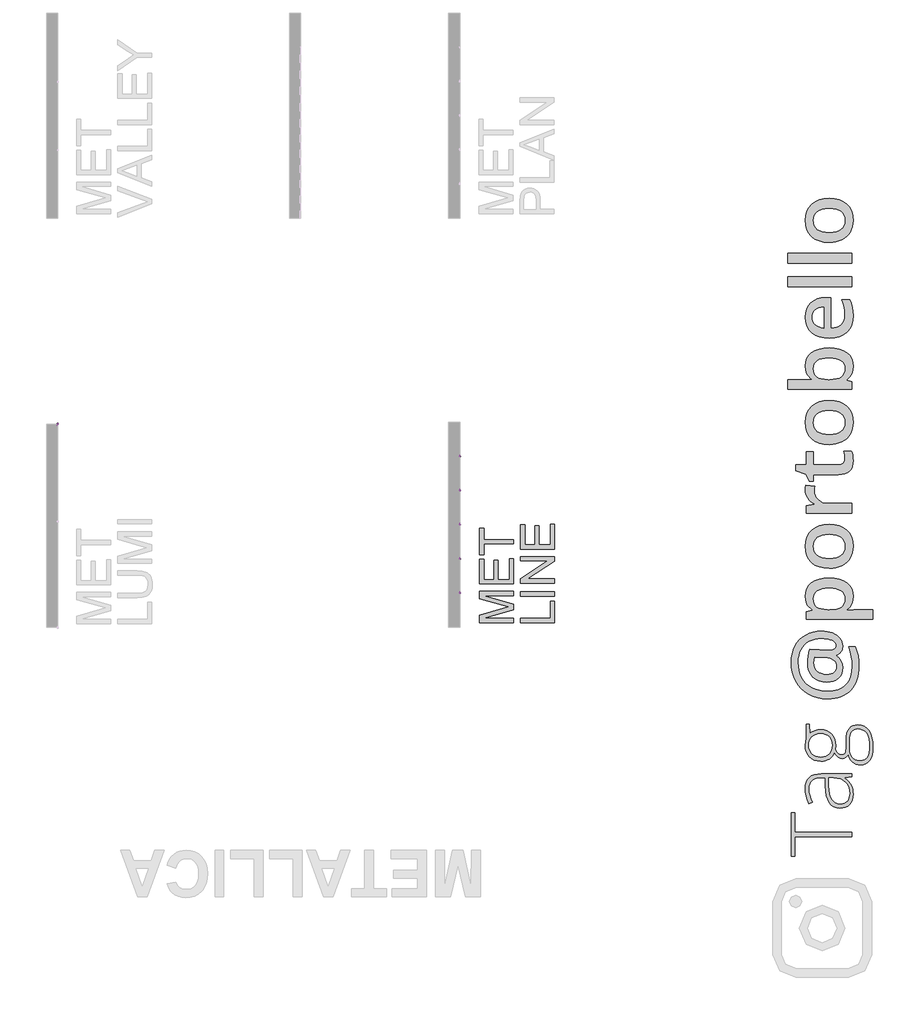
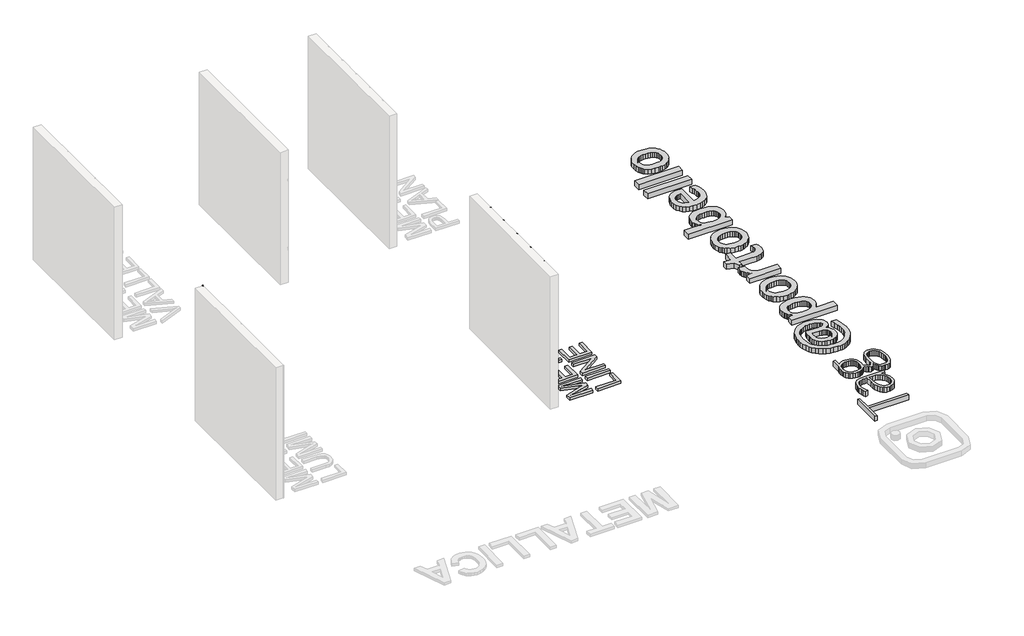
# One storey, part 3 of 4: 21 proxies.
"""IFC4 building model written with IfcOpenShell, lengths in millimetres."""

from ifc_helpers import new_model, si_unit, origin, origin_with_axes, place, context, project, spatial, polyline, outline, extrude, transform, mapped, element, save
from components import generic_models_0ccefe23, generic_models_85288f6c, met_line_black_18039f9f, met_line_black_524d391c

model = new_model("IFC4")

# Units and contexts
model_context = context("Model", 3, world=origin())
ifc_project = project(units=[si_unit("LENGTHUNIT", "METRE", prefix="MILLI")], contexts=[model_context])

# Site, building, storey
site = spatial("IfcSite", under=ifc_project)
building = spatial("IfcBuilding", under=site)
storey = spatial("IfcBuildingStorey", under=building, Name="PORTOBELLO - SHOWROOM", Elevation=0.0)

# Proxies
placement = place(None, origin())
generic_models_shape = generic_models_0ccefe23(model_context)
element("IfcBuildingElementProxy", 1, Name="PORTOBELLO - METALLICA MET LUMI DOUBLE CORNER 1,3X120 : LUMI DOUBLE CORNER 1,3X120", ObjectType="PORTOBELLO - METALLICA MET LUMI DOUBLE CORNER 1,3X120 : LUMI DOUBLE CORNER 1,3X120", at=placement, inside=storey, context=model_context, shape_type="MappedRepresentation", body=[
    mapped(generic_models_shape, transform((52626.6154392, 21119.4682026, 600.0), x_axis=(0.0, -1.0, 0.0), y_axis=(0.0, 0.0, -1.0), z_axis=(1.0, 0.0, 0.0))),
])
element("IfcBuildingElementProxy", 2, Name="PORTOBELLO - METALLICA MET LUMI DOUBLE CORNER 1,3X120 : LUMI DOUBLE CORNER 1,3X120", ObjectType="PORTOBELLO - METALLICA MET LUMI DOUBLE CORNER 1,3X120 : LUMI DOUBLE CORNER 1,3X120", at=placement, inside=storey, context=model_context, shape_type="MappedRepresentation", body=[
    mapped(generic_models_shape, transform((52626.6154392, 21119.4682026, 1800.0), x_axis=(0.0, -1.0, 0.0), y_axis=(0.0, 0.0, -1.0), z_axis=(1.0, 0.0, 0.0))),
])
generic_models_2_shape = generic_models_85288f6c(model_context)
element("IfcBuildingElementProxy", 3, Name="PORTOBELLO - METALLICA MET LUMI DOUBLE CORNER 1,3X120 : LUMI DOUBLE CORNER 1,3X120", ObjectType="PORTOBELLO - METALLICA MET LUMI DOUBLE CORNER 1,3X120 : LUMI DOUBLE CORNER 1,3X120", at=placement, inside=storey, context=model_context, shape_type="MappedRepresentation", body=[
    mapped(generic_models_2_shape, transform((52626.6154392, 21119.4682026, 3000.0), x_axis=(0.0, -1.0, 0.0), y_axis=(0.0, 0.0, -1.0), z_axis=(1.0, 0.0, 0.0))),
])
element("IfcBuildingElementProxy", 4, Name="450mm Arial", ObjectType="450mm Arial", at=placement, inside=storey, context=model_context, shape_type="SweptSolid", body=[
    extrude(outline(polyline([(58630.2192493, 18499.6436163), (58180.5631065, 18499.6436163), (58180.5631065, 18596.3592076), (58497.4960372, 18688.3542876), (58563.6929742, 18706.9069946), (58492.0070706, 18726.9966123), (58180.5631065, 18817.4547817), (58180.5631065, 18914.170373), (58630.2192493, 18914.170373), (58630.2192493, 18857.9633551), (58236.7701243, 18857.9633551), (58630.2192493, 18745.0004228), (58630.2192493, 18668.8135665), (58236.7701243, 18555.8506342), (58630.2192493, 18555.8506342), (58630.2192493, 18499.6436163)])), origin_with_axes(), (0.0, 0.0, 1.0), 50.0),
    extrude(outline(polyline([(58630.2192493, 19012.5326542), (58180.5631065, 19012.5326542), (58180.5631065, 19335.7230069), (58236.7701243, 19335.7230069), (58236.7701243, 19068.7396721), (58370.2617917, 19068.7396721), (58370.2617917, 19321.6712524), (58426.4688096, 19321.6712524), (58426.4688096, 19068.7396721), (58574.0122314, 19068.7396721), (58574.0122314, 19342.7488841), (58630.2192493, 19342.7488841), (58630.2192493, 19012.5326542)])), origin_with_axes(), (0.0, 0.0, 1.0), 50.0),
    extrude(outline(polyline([(58630.2192493, 19539.4734466), (58236.7701243, 19539.4734466), (58236.7701243, 19391.9300247), (58180.5631065, 19391.9300247), (58180.5631065, 19743.2238863), (58236.7701243, 19743.2238863), (58236.7701243, 19595.6804644), (58630.2192493, 19595.6804644), (58630.2192493, 19539.4734466)])), origin_with_axes(), (0.0, 0.0, 1.0), 50.0),
    extrude(outline(polyline([(59170.6513324, 18499.6436163), (58720.9951896, 18499.6436163), (58720.9951896, 18555.8506342), (59114.4443146, 18555.8506342), (59114.4443146, 18780.6787056), (59170.6513324, 18780.6787056), (59170.6513324, 18499.6436163)])), origin_with_axes(), (0.0, 0.0, 1.0), 50.0),
    extrude(outline(polyline([(59170.6513324, 18850.9374779), (58720.9951896, 18850.9374779), (58720.9951896, 18907.1444957), (59170.6513324, 18907.1444957), (59170.6513324, 18850.9374779)])), origin_with_axes(), (0.0, 0.0, 1.0), 50.0),
    extrude(outline(polyline([(59170.6513324, 19019.5585314), (58720.9951896, 19019.5585314), (58720.9951896, 19079.7176052), (59077.2291211, 19314.6453752), (58720.9951896, 19314.6453752), (58720.9951896, 19370.852393), (59170.6513324, 19370.852393), (59170.6513324, 19310.6933192), (58814.3076216, 19075.7655493), (59170.6513324, 19075.7655493), (59170.6513324, 19019.5585314)])), origin_with_axes(), (0.0, 0.0, 1.0), 50.0),
    extrude(outline(polyline([(59170.6513324, 19469.2146743), (58720.9951896, 19469.2146743), (58720.9951896, 19792.4050269), (58777.2022075, 19792.4050269), (58777.2022075, 19525.4216921), (58910.6938749, 19525.4216921), (58910.6938749, 19778.3532724), (58966.9008927, 19778.3532724), (58966.9008927, 19525.4216921), (59114.4443146, 19525.4216921), (59114.4443146, 19799.4309041), (59170.6513324, 19799.4309041), (59170.6513324, 19469.2146743)])), origin_with_axes(), (0.0, 0.0, 1.0), 50.0),
])
element("IfcBuildingElementProxy", 5, Name="80mm OpenSans Bold", ObjectType="80mm OpenSans Bold", at=placement, inside=storey, context=model_context, shape_type="SweptSolid", body=[
    extrude(outline(polyline([(62686.7426869, 18389.3546071), (62724.8483016, 18387.8072472), (62761.2863731, 18383.1651676), (62796.0569015, 18375.4283682), (62829.1598867, 18364.5968491), (62859.6413738, 18350.9560456), (62886.5474081, 18334.791393), (62909.8779894, 18316.1028912), (62929.6331179, 18294.8905404), (62945.3545946, 18271.5449361), (62956.5842208, 18246.4566742), (62963.3219966, 18219.6257545), (62965.5679218, 18191.052177), (62959.8592155, 18150.4302247), (62952.7233326, 18132.2825478), (62942.7330966, 18115.5770703), (62930.3091489, 18100.8996859), (62915.872131, 18088.8362881), (62899.4220431, 18079.3868769), (62880.958885, 18072.5514522), (62880.958885, 18065.8211879), (62917.9753386, 18035.6551819), (62944.4156626, 17998.9992782), (62960.279857, 17956.6346681), (62965.5679218, 17909.3425431), (62962.0150033, 17866.6774749), (62951.3562477, 17828.8197382), (62933.591655, 17795.7693332), (62908.7212252, 17767.5262599), (62877.7815393, 17744.9167783), (62841.809178, 17728.7671485), (62800.8041415, 17719.0773707), (62754.7664296, 17715.8474448), (62701.6228806, 17720.1289745), (62653.7223277, 17732.9735637), (62611.0647709, 17754.3812124), (62573.6502102, 17784.3519206), (62543.2062803, 17821.5336262), (62521.4606161, 17864.5742673), (62508.4132176, 17913.4738438), (62504.0640847, 17968.2323557), (62505.8968799, 18012.5499442), (62511.3952655, 18061.3744061), (62520.1385999, 18109.5979516), (62531.7062416, 18152.1127908), (62782.8893197, 18139.8540951), (62795.6287485, 18139.8540951), (62833.4864851, 18143.4595938), (62860.5277256, 18154.27609), (62869.9921597, 18162.3884622), (62876.7524699, 18172.3035837), (62882.1607179, 18197.5420748), (62878.6979369, 18218.2962268), (62868.3095937, 18236.8119651), (62850.9956883, 18253.0892895), (62826.7562208, 18267.1282002), (62797.153574, 18278.432941), (62763.7501306, 18286.5077559), (62726.5458906, 18291.3526448), (62685.540854, 18292.9676077), (62640.4495856, 18290.548919), (62598.1976473, 18283.2928528), (62558.7850394, 18271.1994092), (62522.2117617, 18254.2685881), (62489.0712192, 18232.8759623), (62459.956817, 18207.3971046), (62434.868555, 18177.832015), (62413.8064333, 18144.1806936), (62397.1385131, 18107.1792629), (62385.2328558, 18067.5638456), (62378.0894615, 18025.3344418), (62375.70833, 17980.4910514), (62378.6978894, 17923.51666), (62387.6665675, 17870.3731111), (62402.6143643, 17821.0604045), (62423.5412798, 17775.5785404), (62450.0191611, 17734.5885267), (62481.6198552, 17698.7513716), (62518.343362, 17668.0670752), (62560.1896816, 17642.5356373), (62606.3776226, 17622.4500048), (62656.1259936, 17608.1031245), (62709.4347945, 17599.4949962), (62766.3040255, 17596.6256202), (62840.4796504, 17601.9812881), (62905.5664139, 17618.0482918), (62934.7014726, 17630.0985446), (62961.564316, 17644.8266313), (62986.154944, 17662.232552), (63008.4733567, 17682.3163066), (63028.3317677, 17704.901376), (63045.5423905, 17729.8112409), (63060.1052252, 17757.0459013), (63072.0202718, 17786.6053573), (63087.9070005, 17852.6986558), (63093.2025768, 17928.0911365), (63090.1078571, 17989.8052564), (63080.8236978, 18052.8413925), (63065.3500991, 18117.1995448), (63043.6870609, 18182.8797133), (63133.8245291, 18182.8797133), (63154.4359635, 18123.6593967), (63169.1584167, 18061.8551393), (63177.9918885, 17997.4669412), (63180.9363792, 17930.4948023), (63179.240668, 17880.8797597), (63174.1535347, 17834.0702457), (63165.6749791, 17790.0662605), (63153.8050012, 17748.8678039), (63138.5436012, 17710.4748761), (63119.8907788, 17674.8874769), (63097.8465343, 17642.1056065), (63072.4108675, 17612.1292647), (63043.9405726, 17585.3415359), (63012.7924437, 17562.1255042), (62978.9664809, 17542.4811698), (62942.4626842, 17526.4085325), (62903.2810535, 17513.9075923), (62861.4215888, 17504.9783494), (62816.8842902, 17499.6208036), (62769.6691577, 17497.834955), (62700.6013227, 17501.6958433), (62635.4544675, 17513.2785079), (62574.2285923, 17532.582949), (62516.9236969, 17559.6091666), (62464.8242402, 17593.4858317), (62419.2146813, 17633.3416156), (62380.0950201, 17679.1765181), (62347.4652567, 17730.9905394), (62321.7535439, 17787.6118924), (62303.3880347, 17847.8687898), (62292.3687292, 17911.7612319), (62288.6956274, 17979.2892185), (62291.7603013, 18037.5105114), (62300.9543231, 18092.4718327), (62316.2776927, 18144.1731821), (62337.7304101, 18192.6145598), (62364.8467651, 18236.7969421), (62397.1610475, 18275.7213055), (62434.6732571, 18309.3876499), (62477.3833941, 18337.7959753), (62524.4501755, 18360.3528767), (62575.032318, 18376.4649491), (62629.1298218, 18386.1321926), (62686.7426869, 18389.3546071)]), holes=[polyline([(62756.6893622, 17821.1280076), (62786.0967112, 17822.7166805), (62811.5830804, 17827.4826991), (62833.1484696, 17835.4260635), (62850.792879, 17846.5467736), (62864.5163086, 17860.8448295), (62874.3187582, 17878.3202312), (62880.200228, 17898.9729786), (62882.1607179, 17922.8030717), (62879.6969605, 17948.0866315), (62872.3056881, 17970.3355633), (62859.9869008, 17989.5498669), (62842.7405985, 18005.7295425), (62820.5667814, 18018.8745899), (62793.4654493, 18028.9850092), (62761.4366022, 18036.0608005), (62724.4802403, 18040.1019637), (62595.884119, 18046.8322279), (62589.0336714, 18010.5368741), (62586.7501889, 17971.8378544), (62589.6120535, 17938.2240902), (62598.1976473, 17908.5313059), (62612.5069704, 17882.7595015), (62632.5400227, 17860.9086769), (62657.4705441, 17843.5046341), (62686.4722745, 17831.0731749), (62719.5452139, 17823.6142994), (62756.6893622, 17821.1280076)])]), origin_with_axes(), (0.0, 0.0, 1.0), 100.0),
    extrude(outline(polyline([(63104.019073, 18847.9740452), (63098.8211456, 18794.4173662), (63083.2273636, 18747.2003558), (63057.237727, 18706.3230139), (63020.8522357, 18671.7853407), (63020.8522357, 18664.0936101), (63114.8355692, 18671.7853407), (63365.537914, 18671.7853407), (63365.537914, 18542.9488528), (62488.6806235, 18542.9488528), (62488.6806235, 18647.2679494), (62565.8382963, 18665.295443), (62565.8382963, 18671.7853407), (62544.148968, 18687.6157336), (62525.3515501, 18705.301456), (62509.4460427, 18724.8425079), (62496.4324458, 18746.2388894), (62486.3107592, 18769.4906005), (62479.0809831, 18794.5976411), (62473.2971623, 18850.377711), (62478.4575323, 18903.1832445), (62493.9386425, 18949.8293842), (62519.7404927, 18990.3161304), (62555.8630831, 19024.6434828), (62601.2998785, 19051.9851815), (62655.0443439, 19071.5149663), (62717.0964793, 19083.2328372), (62787.4562847, 19087.1387941), (62857.9888536, 19083.1652341), (62920.3189128, 19071.2445539), (62974.4464625, 19051.3767536), (63020.3715025, 19023.5618332), (63056.9673146, 18988.7462361), (63083.1071804, 18947.8764058), (63098.7910998, 18900.9523421), (63104.019073, 18847.9740452)]), holes=[polyline([(62580.9813909, 18816.486023), (62583.7756524, 18781.4000135), (62592.158437, 18751.3767251), (62606.1297445, 18726.4161579), (62625.6895751, 18706.5183118), (62651.3787536, 18691.3226369), (62683.7381046, 18680.4685835), (62722.7676284, 18673.9561514), (62768.4673247, 18671.7853407), (62787.4562847, 18671.7853407), (62838.8045958, 18673.933617), (62882.5212678, 18680.378446), (62918.6063009, 18691.1198276), (62947.059695, 18706.1577619), (62968.6175728, 18726.0781424), (62984.016057, 18751.4668626), (62993.2551475, 18782.3239225), (62996.3348443, 18818.6493222), (62992.9246434, 18849.5739852), (62982.6940408, 18876.7278975), (62965.6430364, 18900.1110591), (62941.7716302, 18919.7234699), (62911.6056242, 18935.2346258), (62875.6708202, 18946.314023), (62833.9672183, 18952.9616613), (62786.4948184, 18955.1775407), (62738.8646779, 18952.9766842), (62697.408954, 18946.3741146), (62662.1276466, 18935.369832), (62633.0207559, 18919.9638364), (62610.2535337, 18900.291334), (62593.9912322, 18876.487531), (62584.2338512, 18848.5524273), (62580.9813909, 18816.486023)])]), origin_with_axes(), (0.0, 0.0, 1.0), 100.0),
    extrude(outline(polyline([(62787.4562847, 19795.2587442), (62857.9888536, 19790.4514125), (62920.3189128, 19776.0294176), (62974.4464625, 19751.9927594), (63020.3715025, 19718.341438), (63039.9764018, 19698.1694238), (63056.9673146, 19676.1120341), (63071.3442408, 19652.1692692), (63083.1071804, 19626.3411288), (63098.7910998, 19569.0287219), (63104.019073, 19504.1748136), (63101.6078957, 19462.5237918), (63094.3743639, 19423.3815963), (63082.3184775, 19386.7482269), (63065.4402366, 19352.6236837), (63044.0626337, 19321.6464405), (63018.5086615, 19294.4549709), (62988.7783199, 19271.049275), (62954.871609, 19251.4293528), (62917.4119795, 19235.9181968), (62877.0228823, 19224.8387997), (62833.7043173, 19218.1911614), (62787.4562847, 19215.975282), (62717.487075, 19220.7450563), (62655.6452604, 19235.0543794), (62601.9308408, 19258.9032512), (62556.3438163, 19292.2916717), (62536.8797567, 19312.3491362), (62520.0109051, 19334.363335), (62505.7372615, 19358.3342679), (62494.0588258, 19384.2619351), (62478.4875781, 19441.987472), (62473.2971623, 19507.5399457), (62478.6152729, 19570.4333642), (62494.5696047, 19626.4312663), (62521.1601579, 19675.5336521), (62558.3869322, 19717.7405215), (62604.6124305, 19751.6547439), (62658.1991553, 19775.8791885), (62719.1471067, 19790.4138553), (62787.4562847, 19795.2587442)]), holes=[polyline([(62787.4562847, 19348.6576351), (62836.4121971, 19351.1213926), (62878.8406545, 19358.512665), (62914.741657, 19370.8314523), (62944.1152044, 19388.0777546), (62966.9612969, 19410.2515717), (62983.2799343, 19437.3529038), (62993.0711168, 19469.3817509), (62996.3348443, 19506.3381128), (62993.0711168, 19542.9564593), (62983.2799343, 19574.6923595), (62966.9612969, 19601.5458136), (62944.1152044, 19623.5168215), (62914.741657, 19640.6053831), (62878.8406545, 19652.8114986), (62836.4121971, 19660.1351679), (62787.4562847, 19662.576391), (62739.0637315, 19660.120145), (62697.1235187, 19652.751407), (62661.6356463, 19640.4701769), (62632.6001144, 19623.2764549), (62610.0169229, 19601.1702408), (62593.8860718, 19574.1515347), (62584.2075611, 19542.2203366), (62580.9813909, 19505.3766465), (62584.3164772, 19466.9855965), (62594.3217362, 19434.2581841), (62610.9971678, 19407.1944093), (62634.3427721, 19385.794272), (62663.9228846, 19369.5469934), (62699.3018408, 19357.9417944), (62740.4796409, 19350.9786749), (62787.4562847, 19348.6576351)])]), origin_with_axes(), (0.0, 0.0, 1.0), 100.0),
    extrude(outline(polyline([(62473.2971623, 20245.9460851), (62474.6792701, 20280.6189645), (62478.8255936, 20308.681763), (62599.0088846, 20296.4230673), (62593.9611863, 20269.021277), (62592.2786203, 20240.6580203), (62595.4184087, 20204.603033), (62604.8377742, 20172.1535445), (62620.5367165, 20143.3095547), (62642.5152359, 20118.0710636), (62669.5114076, 20097.5647896), (62700.2633071, 20082.917451), (62734.7709346, 20074.1290478), (62773.0342898, 20071.1995801), (63088.6356117, 20071.1995801), (63088.6356117, 19942.3630923), (62488.6806235, 19942.3630923), (62488.6806235, 20043.3170566), (62590.8364208, 20060.3830839), (62590.8364208, 20066.8729816), (62565.1923111, 20082.6695729), (62542.3424629, 20100.7346239), (62522.2868762, 20121.0681344), (62505.0255511, 20143.6701045), (62491.144381, 20167.8645033), (62481.2292595, 20192.9752996), (62475.2801866, 20219.0024936), (62473.2971623, 20245.9460851)])), origin_with_axes(), (0.0, 0.0, 1.0), 100.0),
    extrude(outline(polyline([(62996.3348443, 20664.9050372), (62992.6692539, 20712.7980787), (62981.6724828, 20760.8113034), (63081.4246143, 20760.8113034), (63090.2580862, 20736.0535455), (63097.5291753, 20705.0462564), (63102.3965985, 20670.3132853), (63104.019073, 20634.3784813), (63100.9844449, 20590.9998248), (63091.8805606, 20553.4049891), (63076.7074201, 20521.5939743), (63055.4650234, 20495.5667803), (63028.1533706, 20475.3234073), (62994.7724615, 20460.8638551), (62955.3222963, 20452.1881238), (62909.8028749, 20449.2962133), (62580.9813909, 20449.2962133), (62580.9813909, 20365.6486429), (62526.89891, 20365.6486429), (62482.1907258, 20455.3053779), (62350.2294724, 20499.2924624), (62350.2294724, 20578.8538009), (62488.6806235, 20578.8538009), (62488.6806235, 20754.5617723), (62580.9813909, 20754.5617723), (62580.9813909, 20578.8538009), (62905.4762764, 20578.8538009), (62927.1618489, 20580.3335577), (62945.8278163, 20584.772828), (62961.4741785, 20592.1716119), (62974.1009355, 20602.5299093), (62983.8282706, 20615.3068954), (62990.7763671, 20629.9617454), (62996.3348443, 20664.9050372)])), origin_with_axes(), (0.0, 0.0, 1.0), 100.0),
    extrude(outline(polyline([(62787.4562847, 21425.9056353), (62857.9888536, 21421.0983037), (62920.3189128, 21406.6763088), (62974.4464625, 21382.6396506), (63020.3715025, 21348.9883291), (63039.9764018, 21328.8163149), (63056.9673146, 21306.7589253), (63071.3442408, 21282.8161603), (63083.1071804, 21256.9880199), (63098.7910998, 21199.6756131), (63104.019073, 21134.8217047), (63101.6078957, 21093.170683), (63094.3743639, 21054.0284874), (63082.3184775, 21017.395118), (63065.4402366, 20983.2705749), (63044.0626337, 20952.2933316), (63018.5086615, 20925.1018621), (62988.7783199, 20901.6961662), (62954.871609, 20882.0762439), (62917.4119795, 20866.5650879), (62877.0228823, 20855.4856908), (62833.7043173, 20848.8380525), (62787.4562847, 20846.6221731), (62717.487075, 20851.3919475), (62655.6452604, 20865.7012705), (62601.9308408, 20889.5501423), (62556.3438163, 20922.9385628), (62536.8797567, 20942.9960274), (62520.0109051, 20965.0102261), (62505.7372615, 20988.9811591), (62494.0588258, 21014.9088262), (62478.4875781, 21072.6343631), (62473.2971623, 21138.1868369), (62478.6152729, 21201.0802553), (62494.5696047, 21257.0781574), (62521.1601579, 21306.1805432), (62558.3869322, 21348.3874127), (62604.6124305, 21382.3016351), (62658.1991553, 21406.5260797), (62719.1471067, 21421.0607464), (62787.4562847, 21425.9056353)]), holes=[polyline([(62787.4562847, 20979.3045263), (62836.4121971, 20981.7682837), (62878.8406545, 20989.1595561), (62914.741657, 21001.4783434), (62944.1152044, 21018.7246457), (62966.9612969, 21040.8984629), (62983.2799343, 21067.999795), (62993.0711168, 21100.028642), (62996.3348443, 21136.985004), (62993.0711168, 21173.6033504), (62983.2799343, 21205.3392507), (62966.9612969, 21232.1927047), (62944.1152044, 21254.1637126), (62914.741657, 21271.2522743), (62878.8406545, 21283.4583898), (62836.4121971, 21290.782059), (62787.4562847, 21293.2232821), (62739.0637315, 21290.7670361), (62697.1235187, 21283.3982981), (62661.6356463, 21271.1170681), (62632.6001144, 21253.923346), (62610.0169229, 21231.8171319), (62593.8860718, 21204.7984259), (62584.2075611, 21172.8672277), (62580.9813909, 21136.0235376), (62584.3164772, 21097.6324876), (62594.3217362, 21064.9050752), (62610.9971678, 21037.8413004), (62634.3427721, 21016.4411632), (62663.9228846, 21000.1938845), (62699.3018408, 20988.5886855), (62740.4796409, 20981.6255661), (62787.4562847, 20979.3045263)])]), origin_with_axes(), (0.0, 0.0, 1.0), 100.0),
    extrude(outline(polyline([(62473.2971623, 21880.9195747), (62478.4575323, 21933.7251082), (62493.9386425, 21980.371248), (62519.7404927, 22020.8579941), (62555.8630831, 22055.1853465), (62601.2998785, 22082.5270452), (62655.0443439, 22102.05683), (62717.0964793, 22113.7747009), (62787.4562847, 22117.6806578), (62858.1841514, 22113.7296321), (62920.619371, 22101.8765551), (62974.7619436, 22082.1214266), (63020.6118691, 22054.4642468), (63057.1025208, 22019.7763445), (63083.167272, 21978.9290485), (63098.8061227, 21931.9223588), (63104.019073, 21878.7562755), (63098.8211456, 21825.0944361), (63083.2273636, 21777.8023111), (63057.237727, 21736.8799006), (63020.8522357, 21702.3272044), (63020.8522357, 21693.6740075), (63088.6356117, 21670.1180825), (63088.6356117, 21573.4907166), (62242.5452437, 21573.4907166), (62242.5452437, 21702.3272044), (62442.5302398, 21702.3272044), (62508.5108665, 21700.1639052), (62564.1557302, 21697.0391396), (62564.1557302, 21702.3272044), (62542.8607533, 21718.367918), (62524.4051067, 21736.2038695), (62508.7887904, 21755.835059), (62496.0118042, 21777.2614863), (62486.0741484, 21800.4831515), (62478.9758228, 21825.5000547), (62473.2971623, 21880.9195747)]), holes=[polyline([(62580.9813909, 21847.0278867), (62583.8282326, 21811.4836784), (62592.3687577, 21781.2876266), (62606.6029662, 21756.4397312), (62626.5308582, 21736.9399922), (62653.1289227, 21722.1574474), (62687.3736492, 21711.4611345), (62729.2650375, 21704.8510535), (62778.8030878, 21702.3272044), (62787.4562847, 21702.3272044), (62838.8045958, 21704.4754807), (62882.5212678, 21710.9203097), (62918.6063009, 21721.6616913), (62947.059695, 21736.6996256), (62968.6175728, 21756.6200061), (62984.016057, 21782.0087263), (62993.2551475, 21812.8657862), (62996.3348443, 21849.1911859), (62992.9622007, 21880.7017425), (62982.8442699, 21908.1711359), (62965.9810519, 21931.5993662), (62942.3725467, 21950.9864333), (62912.3943271, 21966.1821082), (62876.4219658, 21977.0361616), (62834.4554629, 21983.5485937), (62786.4948184, 21985.7194044), (62738.3276088, 21983.5523494), (62696.5826939, 21977.0511845), (62661.2600735, 21966.2159097), (62632.3597478, 21951.046525), (62609.8817167, 21931.5430303), (62593.8259801, 21907.7054257), (62584.1925382, 21879.5337111), (62580.9813909, 21847.0278867)])]), origin_with_axes(), (0.0, 0.0, 1.0), 100.0),
    extrude(outline(polyline([(63104.019073, 22546.4946398), (63098.84368, 22479.6802415), (63083.3175011, 22420.5725968), (63071.6728669, 22393.9088069), (63057.4405363, 22369.1717055), (63040.6205092, 22346.3612925), (63021.2127855, 22325.4775678), (62975.8961734, 22290.616902), (62922.7526245, 22265.7164264), (62861.7821387, 22250.7761411), (62792.9847161, 22245.7960459), (62722.4521472, 22250.4155912), (62659.8817214, 22264.2742269), (62605.2734386, 22287.3719531), (62558.6272988, 22319.7087699), (62521.2953641, 22360.1279129), (62494.6296964, 22407.472618), (62478.6302958, 22461.7428853), (62473.2971623, 22522.9387148), (62477.7890128, 22579.6577166), (62491.2645642, 22630.1121645), (62513.7238167, 22674.3020582), (62545.1667702, 22712.227398), (62584.4817293, 22742.6713279), (62630.5569984, 22764.4169921), (62683.3925777, 22777.4643906), (62742.9884671, 22781.8135234), (62811.7333095, 22781.8135234), (62811.7333095, 22378.4783991), (62853.6322093, 22382.4444477), (62890.3932734, 22391.6985611), (62922.0165018, 22406.2407393), (62948.5018945, 22426.0709823), (62969.4288101, 22450.8287402), (62984.3766069, 22480.1534632), (62993.345285, 22514.0451513), (62996.3348443, 22552.5038044), (62993.8109952, 22604.2727569), (62986.2394479, 22652.3761191), (62972.7789193, 22700.359298), (62952.5881264, 22751.7677007), (63060.5127217, 22751.7677007), (63080.8236978, 22704.3854382), (63094.1640431, 22656.462351), (63101.5553155, 22604.8736734), (63104.019073, 22546.4946398)]), holes=[polyline([(62565.5979297, 22522.6983482), (62568.0541757, 22493.6815949), (62575.4229137, 22467.6844468), (62587.7041437, 22444.7069039), (62604.8978658, 22424.7489661), (62626.7937591, 22408.1561605), (62653.1815029, 22395.274014), (62684.0610972, 22386.1025266), (62719.432542, 22380.6416983), (62719.432542, 22655.1403348), (62683.8657994, 22652.4286993), (62652.8810447, 22645.4956257), (62626.478278, 22634.341114), (62604.6574992, 22618.9651642), (62587.5689375, 22599.8334866), (62575.3628221, 22577.4117914), (62568.0391528, 22551.7000786), (62565.5979297, 22522.6983482)])]), origin_with_axes(), (0.0, 0.0, 1.0), 100.0),
    extrude(outline(polyline([(63088.6356117, 23055.5910601), (63088.6356117, 22926.7545723), (62242.5452437, 22926.7545723), (62242.5452437, 23055.5910601), (63088.6356117, 23055.5910601)])), origin_with_axes(), (0.0, 0.0, 1.0), 100.0),
    extrude(outline(polyline([(63088.6356117, 23363.2602849), (63088.6356117, 23234.423797), (62242.5452437, 23234.423797), (62242.5452437, 23363.2602849), (63088.6356117, 23363.2602849)])), origin_with_axes(), (0.0, 0.0, 1.0), 100.0),
    extrude(outline(polyline([(62787.4562847, 24087.2444293), (62857.9888536, 24082.4370977), (62920.3189128, 24068.0151028), (62974.4464625, 24043.9784446), (63020.3715025, 24010.3271232), (63039.9764018, 23990.1551089), (63056.9673146, 23968.0977193), (63071.3442408, 23944.1549543), (63083.1071804, 23918.326814), (63098.7910998, 23861.0144071), (63104.019073, 23796.1604987), (63101.6078957, 23754.509477), (63094.3743639, 23715.3672814), (63082.3184775, 23678.7339121), (63065.4402366, 23644.6093689), (63044.0626337, 23613.6321257), (63018.5086615, 23586.4406561), (62988.7783199, 23563.0349602), (62954.871609, 23543.4150379), (62917.4119795, 23527.903882), (62877.0228823, 23516.8244848), (62833.7043173, 23510.1768466), (62787.4562847, 23507.9609671), (62717.487075, 23512.7307415), (62655.6452604, 23527.0400646), (62601.9308408, 23550.8889364), (62556.3438163, 23584.2773569), (62536.8797567, 23604.3348214), (62520.0109051, 23626.3490201), (62505.7372615, 23650.3199531), (62494.0588258, 23676.2476202), (62478.4875781, 23733.9731572), (62473.2971623, 23799.5256309), (62478.6152729, 23862.4190493), (62494.5696047, 23918.4169514), (62521.1601579, 23967.5193372), (62558.3869322, 24009.7262067), (62604.6124305, 24043.6404291), (62658.1991553, 24067.8648737), (62719.1471067, 24082.3995404), (62787.4562847, 24087.2444293)]), holes=[polyline([(62787.4562847, 23640.6433203), (62836.4121971, 23643.1070778), (62878.8406545, 23650.4983502), (62914.741657, 23662.8171375), (62944.1152044, 23680.0634397), (62966.9612969, 23702.2372569), (62983.2799343, 23729.338589), (62993.0711168, 23761.367436), (62996.3348443, 23798.323798), (62993.0711168, 23834.9421444), (62983.2799343, 23866.6780447), (62966.9612969, 23893.5314988), (62944.1152044, 23915.5025066), (62914.741657, 23932.5910683), (62878.8406545, 23944.7971838), (62836.4121971, 23952.1208531), (62787.4562847, 23954.5620762), (62739.0637315, 23952.1058302), (62697.1235187, 23944.7370921), (62661.6356463, 23932.4558621), (62632.6001144, 23915.26214), (62610.0169229, 23893.155926), (62593.8860718, 23866.1372199), (62584.2075611, 23834.2060218), (62580.9813909, 23797.3623317), (62584.3164772, 23758.9712817), (62594.3217362, 23726.2438693), (62610.9971678, 23699.1800944), (62634.3427721, 23677.7799572), (62663.9228846, 23661.5326786), (62699.3018408, 23649.9274795), (62740.4796409, 23642.9643601), (62787.4562847, 23640.6433203)])]), origin_with_axes(), (0.0, 0.0, 1.0), 100.0),
])
element("IfcBuildingElementProxy", 6, Name="80mm OpenSans Light", ObjectType="80mm OpenSans Light", at=placement, inside=storey, context=model_context, shape_type="SweptSolid", body=[
    extrude(outline(polyline([(63088.6356117, 15739.5149445), (63088.6356117, 15683.0287978), (62334.8460111, 15683.0287978), (62334.8460111, 15424.3943557), (62288.6956274, 15424.3943557), (62288.6956274, 15997.90902), (62334.8460111, 15997.90902), (62334.8460111, 15739.5149445), (63088.6356117, 15739.5149445)])), origin_with_axes(), (0.0, 0.0, 1.0), 100.0),
    extrude(outline(polyline([(63088.6356117, 16469.5082535), (62992.9697122, 16455.8073584), (62992.9697122, 16451.4807599), (63021.1451824, 16428.6083773), (63044.858848, 16405.4205136), (63064.1107089, 16381.9171688), (63078.9007652, 16358.0983428), (63089.8900248, 16333.0326152), (63097.739496, 16305.7885655), (63102.4491787, 16276.3661936), (63104.019073, 16244.7654995), (63101.1271625, 16202.8816226), (63092.4514312, 16165.9252607), (63077.991879, 16133.8964136), (63057.748506, 16106.7950815), (63032.397343, 16085.2372037), (63002.6144213, 16069.8387196), (62968.3997406, 16060.5996291), (62929.7533012, 16057.5199323), (62887.5314088, 16062.1094317), (62850.2821, 16075.8779299), (62818.005375, 16098.8254271), (62790.7012336, 16130.951923), (62768.8053402, 16171.7616617), (62752.7533595, 16220.7588871), (62742.5452912, 16277.9435993), (62738.1811354, 16343.3157981), (62734.8160033, 16457.9706576), (62694.4344175, 16457.9706576), (62653.8124652, 16455.7923354), (62618.4785777, 16449.257369), (62588.432755, 16438.3657583), (62563.674997, 16423.1175032), (62544.3254872, 16403.0168478), (62530.5044087, 16377.568036), (62522.2117617, 16346.7710677), (62519.447546, 16310.6259429), (62522.3319449, 16268.4265849), (62530.9851419, 16225.4760813), (62545.4071368, 16181.7744322), (62565.5979297, 16137.3216374), (62518.4860796, 16116.890478), (62498.7159283, 16166.2557647), (62484.5943916, 16215.3205932), (62476.1214696, 16264.0849635), (62473.2971623, 16312.5488756), (62476.5345997, 16358.9321144), (62486.2469119, 16399.0507992), (62502.4340988, 16432.90493), (62525.0961606, 16460.4945067), (62554.60867, 16481.8946439), (62591.3471998, 16497.1804563), (62635.3117499, 16506.3519436), (62686.5023203, 16509.4091061), (63088.6356117, 16509.4091061), (63088.6356117, 16469.5082535)]), holes=[polyline([(63057.8686893, 16247.6498985), (63054.3007478, 16293.4096865), (63043.5969235, 16334.0616847), (63025.7572162, 16369.6058929), (63000.7816261, 16400.0423114), (62969.4663673, 16424.4395194), (62932.6076543, 16441.8660966), (62890.205487, 16452.3220429), (62842.2598654, 16455.8073584), (62780.966387, 16455.8073584), (62785.5333521, 16350.2864289), (62790.4383326, 16291.2764331), (62798.9037432, 16241.4003674), (62810.9295837, 16200.6582317), (62826.5158543, 16169.0500262), (62846.2935171, 16145.3889408), (62870.8935344, 16128.4881655), (62900.3159063, 16118.3477004), (62934.5606328, 16114.9675453), (62962.1426981, 16117.138356), (62986.4798145, 16123.6507881), (63007.571982, 16134.5048415), (63025.4192007, 16149.7005164), (63039.615852, 16168.8472169), (63049.7563171, 16191.5543475), (63055.8405962, 16217.821908), (63057.8686893, 16247.6498985)])]), origin_with_axes(), (0.0, 0.0, 1.0), 100.0),
    extrude(outline(polyline([(62488.6806235, 17165.6098745), (62527.1392766, 17165.6098745), (62534.8310072, 17042.301818), (62566.9800375, 17063.9648562), (62600.6914506, 17079.4384549), (62635.9652465, 17088.7226141), (62672.8014252, 17091.8173339), (62715.3913789, 17088.2569039), (62753.7448716, 17077.5756139), (62787.8619033, 17059.7734639), (62817.742474, 17034.850454), (62842.0345217, 17003.9182795), (62859.3859843, 16968.0886359), (62869.7968619, 16927.3615232), (62873.2671544, 16881.7369414), (62869.9020223, 16825.2507946), (62888.1999283, 16796.8574921), (62909.442325, 16776.0958286), (62932.8480209, 16763.3864456), (62957.6358246, 16759.1499846), (62981.9729411, 16764.5281869), (62991.302169, 16771.2509397), (62998.7385101, 16780.6627937), (63008.4733567, 16809.4767377), (63011.7183056, 16852.8929515), (63011.7183056, 16956.7313149), (63014.182063, 17002.1080187), (63021.5733354, 17041.8511307), (63033.8921227, 17075.9606509), (63051.138425, 17104.4365794), (63073.2070818, 17126.8883205), (63099.9929327, 17142.9252783), (63131.4959779, 17152.5474531), (63167.7162172, 17155.7548446), (63212.3718212, 17150.9925817), (63251.6342, 17136.705793), (63285.5033537, 17112.8944785), (63313.9792822, 17079.5586382), (63336.5361836, 17037.4343947), (63352.6482561, 16987.2578708), (63362.3154995, 16929.0290663), (63365.537914, 16862.7479814), (63362.7812098, 16809.9048907), (63354.5110971, 16763.3864456), (63340.7275759, 16723.1926463), (63321.4306462, 16689.3234926), (63297.2062017, 16662.4550156), (63268.6401357, 16643.2632464), (63235.7324484, 16631.7481848), (63198.4831396, 16627.9098309), (63168.4523398, 16630.2834509), (63141.0956182, 16637.4043109), (63116.4129749, 16649.2724109), (63094.4044097, 16665.8877509), (63075.370381, 16686.5742998), (63059.611347, 16710.6560267), (63047.1273076, 16738.1329316), (63037.918263, 16769.0050145), (63024.517826, 16744.7880814), (63006.4302408, 16725.9793963), (62984.4967902, 16713.9009756), (62959.5587573, 16709.8748353), (62931.5710734, 16714.6370982), (62905.2960014, 16728.923887), (62880.7335414, 16752.7352015), (62857.8836932, 16786.0710418), (62845.1292414, 16761.4409786), (62829.2199783, 16739.7103373), (62810.1559038, 16720.8791179), (62787.9370179, 16704.9473204), (62763.2693974, 16692.2754947), (62736.8591192, 16683.2241906), (62708.7061833, 16677.7934081), (62678.8105897, 16675.9831473), (62634.5981616, 16679.5135315), (62594.9827443, 16690.104684), (62559.9643379, 16707.7566048), (62529.5429424, 16732.469294), (62504.9354136, 16763.1911478), (62487.3586073, 16798.8705623), (62476.8125235, 16839.5075375), (62473.2971623, 16885.1020735), (62477.1430276, 16936.9611635), (62488.6806235, 16975.7202749), (62488.6806235, 17165.6098745)]), holes=[polyline([(63191.7528753, 16685.357444), (63221.6672476, 16688.1930185), (63247.5930369, 16696.6997421), (63269.5302432, 16710.8776147), (63287.4788666, 16730.7266363), (63301.4389069, 16756.246807), (63311.4103644, 16787.4381267), (63317.3932388, 16824.3005955), (63319.3875303, 16866.8342133), (63316.9575744, 16921.5363893), (63309.6677066, 16968.9449418), (63297.5179271, 17009.0598709), (63280.5082357, 17041.8811765), (63258.6386325, 17067.4088586), (63231.9091174, 17085.6429173), (63200.3196906, 17096.5833525), (63163.8703519, 17100.2301642), (63137.9032496, 17097.9466817), (63115.7669897, 17091.0962341), (63097.4615722, 17079.6788215), (63082.9869971, 17063.6944438), (63071.9977374, 17042.6022762), (63064.1482662, 17015.861494), (63059.4385835, 16983.4720971), (63057.8686893, 16945.4340855), (63057.8686893, 16848.3259865), (63059.9606297, 16810.1302343), (63066.2364509, 16777.0272491), (63076.6961529, 16749.0170309), (63091.3397358, 16726.0995796), (63110.1671995, 16708.2748953), (63133.1785439, 16695.5429779), (63160.3737692, 16687.9038275), (63191.7528753, 16685.357444)]), polyline([(62678.08949, 16731.0270945), (62711.553025, 16733.6335697), (62741.0354886, 16741.452995), (62766.5368806, 16754.4853706), (62788.0572012, 16772.7306965), (62805.1457628, 16795.3326666), (62817.3518783, 16821.4349751), (62824.6755476, 16851.037622), (62827.1167707, 16884.1406072), (62824.6905705, 16918.9937615), (62817.41197, 16949.5203174), (62805.280969, 16975.7202749), (62788.2975677, 16997.5936338), (62766.7171556, 17014.839936), (62740.795122, 17027.1587234), (62710.5314671, 17034.5499958), (62675.9261907, 17037.0137532), (62639.2026839, 17034.4748812), (62607.3916691, 17026.8582651), (62580.4931463, 17014.163905), (62558.5071155, 16996.3918009), (62541.4185538, 16974.0677546), (62529.2124384, 16947.7175681), (62521.8887691, 16917.3412413), (62519.447546, 16882.9387743), (62522.069044, 16849.4827507), (62529.9335381, 16819.7824549), (62543.0410283, 16793.837887), (62561.3915145, 16771.6490469), (62584.4141262, 16753.8769427), (62611.5379926, 16741.1825826), (62642.7631139, 16733.5659666), (62678.08949, 16731.0270945)])]), origin_with_axes(), (0.0, 0.0, 1.0), 100.0),
])
met_line_black_shape = met_line_black_18039f9f(model_context)
element("IfcBuildingElementProxy", 7, Name="PORTOBELLO - METALLICA MET LINE 0,3X120 : MET LINE BLACK", ObjectType="PORTOBELLO - METALLICA MET LINE 0,3X120 : MET LINE BLACK", at=placement, inside=storey, context=model_context, shape_type="MappedRepresentation", body=[
    mapped(met_line_black_shape, transform((57925.3154392, 20687.9733076, 600.0), x_axis=(0.0, 1.0, 0.0), y_axis=(0.0, 0.0, 1.0), z_axis=(1.0, 0.0, 0.0))),
])
element("IfcBuildingElementProxy", 8, Name="PORTOBELLO - METALLICA MET LINE 0,3X120 : MET LINE BLACK", ObjectType="PORTOBELLO - METALLICA MET LINE 0,3X120 : MET LINE BLACK", at=placement, inside=storey, context=model_context, shape_type="MappedRepresentation", body=[
    mapped(met_line_black_shape, transform((57925.3154392, 20687.9733076, 1800.0), x_axis=(0.0, 1.0, 0.0), y_axis=(0.0, 0.0, 1.0), z_axis=(1.0, 0.0, 0.0))),
])
met_line_black_2_shape = met_line_black_524d391c(model_context)
element("IfcBuildingElementProxy", 9, Name="PORTOBELLO - METALLICA MET LINE 0,3X120 : MET LINE BLACK", ObjectType="PORTOBELLO - METALLICA MET LINE 0,3X120 : MET LINE BLACK", at=placement, inside=storey, context=model_context, shape_type="MappedRepresentation", body=[
    mapped(met_line_black_2_shape, transform((57925.3154392, 20687.9733076, 3000.0), x_axis=(0.0, 1.0, 0.0), y_axis=(0.0, 0.0, 1.0), z_axis=(1.0, 0.0, 0.0))),
])
element("IfcBuildingElementProxy", 10, Name="PORTOBELLO - METALLICA MET LINE 0,3X120 : MET LINE CORTEN", ObjectType="PORTOBELLO - METALLICA MET LINE 0,3X120 : MET LINE CORTEN", at=placement, inside=storey, context=model_context, shape_type="MappedRepresentation", body=[
    mapped(met_line_black_shape, transform((57925.3154392, 20237.9733076, 600.0), x_axis=(0.0, 1.0, 0.0), y_axis=(0.0, 0.0, 1.0), z_axis=(1.0, 0.0, 0.0))),
])
element("IfcBuildingElementProxy", 11, Name="PORTOBELLO - METALLICA MET LINE 0,3X120 : MET LINE CORTEN", ObjectType="PORTOBELLO - METALLICA MET LINE 0,3X120 : MET LINE CORTEN", at=placement, inside=storey, context=model_context, shape_type="MappedRepresentation", body=[
    mapped(met_line_black_shape, transform((57925.3154392, 20237.9733076, 1800.0), x_axis=(0.0, 1.0, 0.0), y_axis=(0.0, 0.0, 1.0), z_axis=(1.0, 0.0, 0.0))),
])
element("IfcBuildingElementProxy", 12, Name="PORTOBELLO - METALLICA MET LINE 0,3X120 : MET LINE CORTEN", ObjectType="PORTOBELLO - METALLICA MET LINE 0,3X120 : MET LINE CORTEN", at=placement, inside=storey, context=model_context, shape_type="MappedRepresentation", body=[
    mapped(met_line_black_2_shape, transform((57925.3154392, 20237.9733076, 3000.0), x_axis=(0.0, 1.0, 0.0), y_axis=(0.0, 0.0, 1.0), z_axis=(1.0, 0.0, 0.0))),
])
element("IfcBuildingElementProxy", 13, Name="PORTOBELLO - METALLICA MET LINE 0,3X120 : MET LINE GOLD", ObjectType="PORTOBELLO - METALLICA MET LINE 0,3X120 : MET LINE GOLD", at=placement, inside=storey, context=model_context, shape_type="MappedRepresentation", body=[
    mapped(met_line_black_shape, transform((57925.3154392, 19787.9733076, 600.0), x_axis=(0.0, 1.0, 0.0), y_axis=(0.0, 0.0, 1.0), z_axis=(1.0, 0.0, 0.0))),
])
element("IfcBuildingElementProxy", 14, Name="PORTOBELLO - METALLICA MET LINE 0,3X120 : MET LINE GOLD", ObjectType="PORTOBELLO - METALLICA MET LINE 0,3X120 : MET LINE GOLD", at=placement, inside=storey, context=model_context, shape_type="MappedRepresentation", body=[
    mapped(met_line_black_shape, transform((57925.3154392, 19787.9733076, 1800.0), x_axis=(0.0, 1.0, 0.0), y_axis=(0.0, 0.0, 1.0), z_axis=(1.0, 0.0, 0.0))),
])
element("IfcBuildingElementProxy", 15, Name="PORTOBELLO - METALLICA MET LINE 0,3X120 : MET LINE GOLD", ObjectType="PORTOBELLO - METALLICA MET LINE 0,3X120 : MET LINE GOLD", at=placement, inside=storey, context=model_context, shape_type="MappedRepresentation", body=[
    mapped(met_line_black_2_shape, transform((57925.3154392, 19787.9733076, 3000.0), x_axis=(0.0, 1.0, 0.0), y_axis=(0.0, 0.0, 1.0), z_axis=(1.0, 0.0, 0.0))),
])
element("IfcBuildingElementProxy", 16, Name="PORTOBELLO - METALLICA MET LINE 0,3X120 : MET LINE SILVER INOX", ObjectType="PORTOBELLO - METALLICA MET LINE 0,3X120 : MET LINE SILVER INOX", at=placement, inside=storey, context=model_context, shape_type="MappedRepresentation", body=[
    mapped(met_line_black_shape, transform((57925.3154392, 19337.9733076, 600.0), x_axis=(0.0, 1.0, 0.0), y_axis=(0.0, 0.0, 1.0), z_axis=(1.0, 0.0, 0.0))),
])
element("IfcBuildingElementProxy", 17, Name="PORTOBELLO - METALLICA MET LINE 0,3X120 : MET LINE SILVER INOX", ObjectType="PORTOBELLO - METALLICA MET LINE 0,3X120 : MET LINE SILVER INOX", at=placement, inside=storey, context=model_context, shape_type="MappedRepresentation", body=[
    mapped(met_line_black_shape, transform((57925.3154392, 19337.9733076, 1800.0), x_axis=(0.0, 1.0, 0.0), y_axis=(0.0, 0.0, 1.0), z_axis=(1.0, 0.0, 0.0))),
])
element("IfcBuildingElementProxy", 18, Name="PORTOBELLO - METALLICA MET LINE 0,3X120 : MET LINE SILVER INOX", ObjectType="PORTOBELLO - METALLICA MET LINE 0,3X120 : MET LINE SILVER INOX", at=placement, inside=storey, context=model_context, shape_type="MappedRepresentation", body=[
    mapped(met_line_black_2_shape, transform((57925.3154392, 19337.9733076, 3000.0), x_axis=(0.0, 1.0, 0.0), y_axis=(0.0, 0.0, 1.0), z_axis=(1.0, 0.0, 0.0))),
])
element("IfcBuildingElementProxy", 19, Name="PORTOBELLO - METALLICA MET LINE 0,3X120 : MET LINE WHITE", ObjectType="PORTOBELLO - METALLICA MET LINE 0,3X120 : MET LINE WHITE", at=placement, inside=storey, context=model_context, shape_type="MappedRepresentation", body=[
    mapped(met_line_black_shape, transform((57925.3154392, 18887.9733076, 600.0), x_axis=(0.0, 1.0, 0.0), y_axis=(0.0, 0.0, 1.0), z_axis=(1.0, 0.0, 0.0))),
])
element("IfcBuildingElementProxy", 20, Name="PORTOBELLO - METALLICA MET LINE 0,3X120 : MET LINE WHITE", ObjectType="PORTOBELLO - METALLICA MET LINE 0,3X120 : MET LINE WHITE", at=placement, inside=storey, context=model_context, shape_type="MappedRepresentation", body=[
    mapped(met_line_black_shape, transform((57925.3154392, 18887.9733076, 1800.0), x_axis=(0.0, 1.0, 0.0), y_axis=(0.0, 0.0, 1.0), z_axis=(1.0, 0.0, 0.0))),
])
element("IfcBuildingElementProxy", 21, Name="PORTOBELLO - METALLICA MET LINE 0,3X120 : MET LINE WHITE", ObjectType="PORTOBELLO - METALLICA MET LINE 0,3X120 : MET LINE WHITE", at=placement, inside=storey, context=model_context, shape_type="MappedRepresentation", body=[
    mapped(met_line_black_2_shape, transform((57925.3154392, 18887.9733076, 3000.0), x_axis=(0.0, 1.0, 0.0), y_axis=(0.0, 0.0, 1.0), z_axis=(1.0, 0.0, 0.0))),
])

save(model, "model.ifc")
